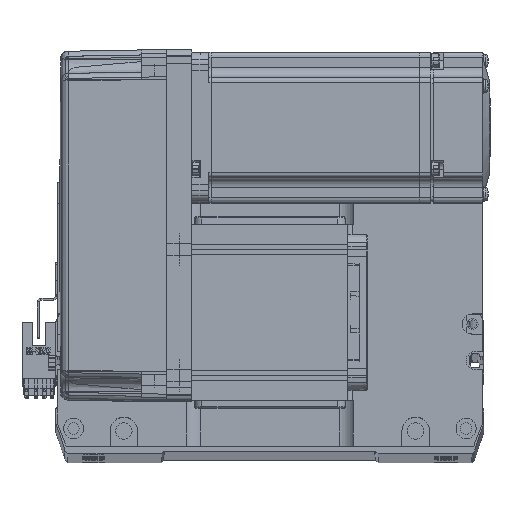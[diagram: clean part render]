
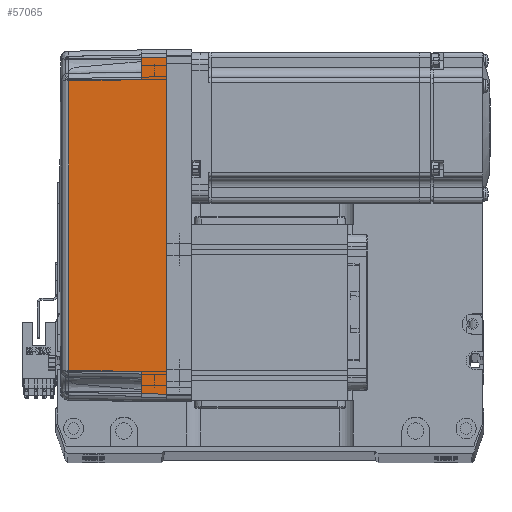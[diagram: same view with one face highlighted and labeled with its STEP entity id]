
A CAD part, top view. The second image highlights one B-rep face of the part: STEP entity #57065.
In plain terms, the highlighted planar face has unit normal (-0.018, 0, 1) as drawn and (0, 1, 0.017) by its records, which use the part's own axes.
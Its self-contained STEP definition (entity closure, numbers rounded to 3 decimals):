
#651 = CARTESIAN_POINT ( 'NONE',  ( -57.495, 35.32, 38.985 ) ) ;
#782 = DIRECTION ( 'NONE',  ( 0., 1., 0.017 ) ) ;
#3070 = CARTESIAN_POINT ( 'NONE',  ( -67., 36., 0. ) ) ;
#3785 = VERTEX_POINT ( 'NONE', #3070 ) ;
#6634 = VERTEX_POINT ( 'NONE', #60398 ) ;
#7533 = CARTESIAN_POINT ( 'NONE',  ( -57.495, 35.32, 38.985 ) ) ;
#7791 = CARTESIAN_POINT ( 'NONE',  ( 57.495, 35.32, 38.985 ) ) ;
#8129 = VECTOR ( 'NONE', #50720, 1000. ) ;
#9213 = ORIENTED_EDGE ( 'NONE', *, *, #17969, .T. ) ;
#9373 = CARTESIAN_POINT ( 'NONE',  ( -58., 35.825, 10. ) ) ;
#11447 = DIRECTION ( 'NONE',  ( 1., 0., 0. ) ) ;
#15800 = DIRECTION ( 'NONE',  ( 0., -0.017, 1. ) ) ;
#15946 = LINE ( 'NONE', #28655, #47409 ) ;
#16875 = CARTESIAN_POINT ( 'NONE',  ( 70., 35.825, 10. ) ) ;
#17585 = ORIENTED_EDGE ( 'NONE', *, *, #28410, .T. ) ;
#17969 = EDGE_CURVE ( 'NONE', #6634, #31099, #22604, .T. ) ;
#18200 = CARTESIAN_POINT ( 'NONE',  ( 19.165, 35.316, 39.181 ) ) ;
#19159 = VERTEX_POINT ( 'NONE', #34607 ) ;
#21124 = DIRECTION ( 'NONE',  ( 1., 0., 0. ) ) ;
#21338 = VECTOR ( 'NONE', #24728, 1000. ) ;
#21965 = CARTESIAN_POINT ( 'NONE',  ( 57.495, 35.32, 38.985 ) ) ;
#22604 = LINE ( 'NONE', #21965, #50041 ) ;
#23674 = EDGE_CURVE ( 'NONE', #60893, #24961, #58512, .T. ) ;
#24728 = DIRECTION ( 'NONE',  ( 0.017, -0.017, 1. ) ) ;
#24961 = VERTEX_POINT ( 'NONE', #651 ) ;
#24985 = CARTESIAN_POINT ( 'NONE',  ( 70., 35.825, 10. ) ) ;
#25409 = ORIENTED_EDGE ( 'NONE', *, *, #42402, .F. ) ;
#25413 = CARTESIAN_POINT ( 'NONE',  ( 58., 35.825, 10. ) ) ;
#25796 = DIRECTION ( 'NONE',  ( 0.017, -0.017, 1. ) ) ;
#26212 = ORIENTED_EDGE ( 'NONE', *, *, #29690, .T. ) ;
#27646 = CARTESIAN_POINT ( 'NONE',  ( 0., 36., 0. ) ) ;
#28410 = EDGE_CURVE ( 'NONE', #31099, #38586, #39613, .T. ) ;
#28655 = CARTESIAN_POINT ( 'NONE',  ( 67.001, 36.001, -0.052 ) ) ;
#29690 = EDGE_CURVE ( 'NONE', #46583, #60893, #49952, .T. ) ;
#30089 = EDGE_CURVE ( 'NONE', #3785, #46583, #40217, .T. ) ;
#30282 = CARTESIAN_POINT ( 'NONE',  ( 66.826, 35.825, 10. ) ) ;
#30870 = EDGE_LOOP ( 'NONE', ( #35424, #26212, #38100, #61873, #9213, #17585, #25409, #55400 ) ) ;
#31099 = VERTEX_POINT ( 'NONE', #25413 ) ;
#34525 = AXIS2_PLACEMENT_3D ( 'NONE', #47375, #782, #15800 ) ;
#34607 = CARTESIAN_POINT ( 'NONE',  ( 67., 36., 0. ) ) ;
#34641 = CARTESIAN_POINT ( 'NONE',  ( -58., 35.825, 10. ) ) ;
#34791 = B_SPLINE_CURVE_WITH_KNOTS ( 'NONE', 3,
 ( #7533, #43685, #18200, #7791 ),
 .UNSPECIFIED., .F., .F.,
 ( 4, 4 ),
 ( 0., 1. ),
 .UNSPECIFIED. ) ;
#35424 = ORIENTED_EDGE ( 'NONE', *, *, #30089, .T. ) ;
#36999 = VECTOR ( 'NONE', #21124, 1000. ) ;
#38100 = ORIENTED_EDGE ( 'NONE', *, *, #23674, .T. ) ;
#38586 = VERTEX_POINT ( 'NONE', #30282 ) ;
#39613 = LINE ( 'NONE', #24985, #8129 ) ;
#40217 = LINE ( 'NONE', #56719, #66807 ) ;
#42402 = EDGE_CURVE ( 'NONE', #19159, #38586, #15946, .T. ) ;
#43685 = CARTESIAN_POINT ( 'NONE',  ( -19.165, 35.316, 39.181 ) ) ;
#46054 = EDGE_CURVE ( 'NONE', #3785, #19159, #66999, .T. ) ;
#46583 = VERTEX_POINT ( 'NONE', #48391 ) ;
#46722 = PLANE ( 'NONE',  #34525 ) ;
#47375 = CARTESIAN_POINT ( 'NONE',  ( 70., 36., 0. ) ) ;
#47409 = VECTOR ( 'NONE', #49431, 1000. ) ;
#48380 = DIRECTION ( 'NONE',  ( 0.017, 0.017, -1. ) ) ;
#48391 = CARTESIAN_POINT ( 'NONE',  ( -66.826, 35.825, 10. ) ) ;
#49265 = VECTOR ( 'NONE', #11447, 1000. ) ;
#49431 = DIRECTION ( 'NONE',  ( -0.017, -0.017, 1. ) ) ;
#49952 = LINE ( 'NONE', #16875, #36999 ) ;
#50041 = VECTOR ( 'NONE', #48380, 1000. ) ;
#50720 = DIRECTION ( 'NONE',  ( 1., 0., 0. ) ) ;
#51533 = FACE_OUTER_BOUND ( 'NONE', #30870, .T. ) ;
#55059 = EDGE_CURVE ( 'NONE', #24961, #6634, #34791, .T. ) ;
#55400 = ORIENTED_EDGE ( 'NONE', *, *, #46054, .F. ) ;
#56719 = CARTESIAN_POINT ( 'NONE',  ( -67., 36., 0. ) ) ;
#57065 = ADVANCED_FACE ( 'NONE', ( #51533 ), #46722, .T. ) ;
#58512 = LINE ( 'NONE', #34641, #21338 ) ;
#60398 = CARTESIAN_POINT ( 'NONE',  ( 57.495, 35.32, 38.985 ) ) ;
#60893 = VERTEX_POINT ( 'NONE', #9373 ) ;
#61873 = ORIENTED_EDGE ( 'NONE', *, *, #55059, .T. ) ;
#66807 = VECTOR ( 'NONE', #25796, 1000. ) ;
#66999 = LINE ( 'NONE', #27646, #49265 ) ;
